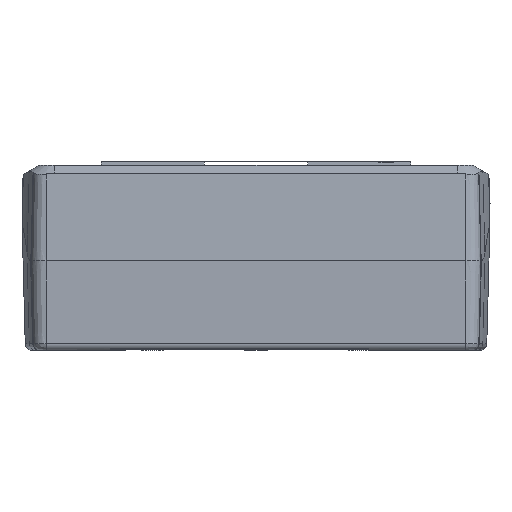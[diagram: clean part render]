
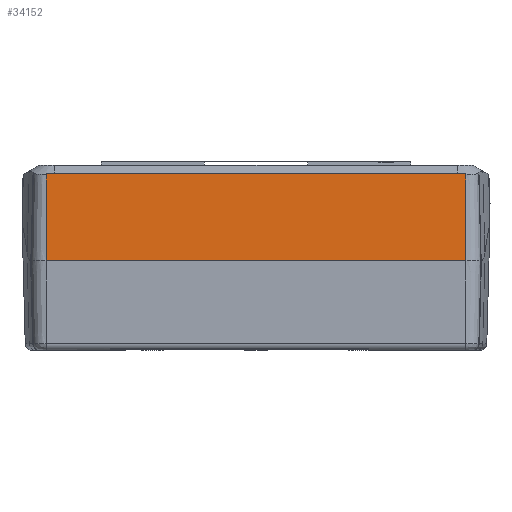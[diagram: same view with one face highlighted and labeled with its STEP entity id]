
A CAD part, left-side view. The second image highlights one B-rep face of the part: STEP entity #34152.
In plain terms, the highlighted planar face has unit normal (-1, 0, 0.026).
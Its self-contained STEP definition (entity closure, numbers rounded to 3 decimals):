
#12372=CARTESIAN_POINT('',(-33.339,-60.991,
-2.555));
#14578=CARTESIAN_POINT('',(-33.339,-60.991,
-2.555));
#14579=CARTESIAN_POINT('',(-33.338,-60.724,
-2.512));
#14580=CARTESIAN_POINT('',(-33.336,-60.192,
-2.439));
#14581=CARTESIAN_POINT('',(-33.334,-59.396,
-2.373));
#14582=CARTESIAN_POINT('',(-33.334,-58.865,
-2.358));
#14583=CARTESIAN_POINT('',(-33.334,-58.6,-2.358));
#14585=DIRECTION('',(-0.026,0.,-1.));
#14586=VECTOR('',#14585,25.254);
#14587=CARTESIAN_POINT('',(-33.339,-60.991,
-2.555));
#14588=LINE('',#14587,#14586);
#14589=DIRECTION('',(0.,1.,0.));
#14590=VECTOR('',#14589,121.981);
#14591=CARTESIAN_POINT('',(-34.,-60.991,-27.8));
#14592=LINE('',#14591,#14590);
#14593=CARTESIAN_POINT('',(-33.334,58.6,-2.358));
#14594=CARTESIAN_POINT('',(-33.334,58.865,
-2.358));
#14595=CARTESIAN_POINT('',(-33.334,59.397,
-2.373));
#14596=CARTESIAN_POINT('',(-33.336,60.192,
-2.439));
#14597=CARTESIAN_POINT('',(-33.338,60.724,
-2.512));
#14598=CARTESIAN_POINT('',(-33.339,60.991,
-2.555));
#14600=DIRECTION('',(0.,1.,0.));
#14601=VECTOR('',#14600,117.2);
#14602=CARTESIAN_POINT('',(-33.334,-58.6,-2.358));
#14603=LINE('',#14602,#14601);
#14604=DIRECTION('',(-0.026,0.,-1.));
#14605=VECTOR('',#14604,25.254);
#14606=CARTESIAN_POINT('',(-33.339,60.991,
-2.555));
#14607=LINE('',#14606,#14605);
#18259=CARTESIAN_POINT('',(-34.,-60.991,-27.8));
#18261=VERTEX_POINT('',#18259);
#18262=CARTESIAN_POINT('',(-34.,60.991,-27.8));
#18263=VERTEX_POINT('',#18262);
#21574=VERTEX_POINT('',#12372);
#21575=VERTEX_POINT('',#14583);
#21576=CARTESIAN_POINT('',(-33.334,58.6,-2.358));
#21577=VERTEX_POINT('',#21576);
#21578=VERTEX_POINT('',#14598);
#34137=CARTESIAN_POINT('',(-34.,60.991,-27.8));
#34138=DIRECTION('',(-1.,0.,0.026));
#34139=DIRECTION('',(0.,-1.,0.));
#34140=AXIS2_PLACEMENT_3D('',#34137,#34138,#34139);
#34141=PLANE('',#34140);
#34142=ORIENTED_EDGE('',*,*,#31561,.F.);
#34143=ORIENTED_EDGE('',*,*,#34132,.T.);
#34145=ORIENTED_EDGE('',*,*,#34144,.T.);
#34147=ORIENTED_EDGE('',*,*,#34146,.F.);
#34148=ORIENTED_EDGE('',*,*,#31594,.F.);
#34149=ORIENTED_EDGE('',*,*,#31577,.F.);
#34150=EDGE_LOOP('',(#34142,#34143,#34145,#34147,#34148,#34149));
#34151=FACE_OUTER_BOUND('',#34150,.F.);
#34152=ADVANCED_FACE('',(#34151),#34141,.T.);
#14584=B_SPLINE_CURVE_WITH_KNOTS('',3,(#14578,#14579,#14580,#14581,#14582,
#14583),.UNSPECIFIED.,.F.,.F.,(4,1,1,4),(0.,0.333,
0.667,1.),.UNSPECIFIED.);
#14599=B_SPLINE_CURVE_WITH_KNOTS('',3,(#14593,#14594,#14595,#14596,#14597,
#14598),.UNSPECIFIED.,.F.,.F.,(4,1,1,4),(0.,0.333,
0.667,1.),.UNSPECIFIED.);
#31561=EDGE_CURVE('',#21574,#21575,#14584,.T.);
#31577=EDGE_CURVE('',#21575,#21577,#14603,.T.);
#31594=EDGE_CURVE('',#21577,#21578,#14599,.T.);
#34132=EDGE_CURVE('',#21574,#18261,#14588,.T.);
#34144=EDGE_CURVE('',#18261,#18263,#14592,.T.);
#34146=EDGE_CURVE('',#21578,#18263,#14607,.T.);
